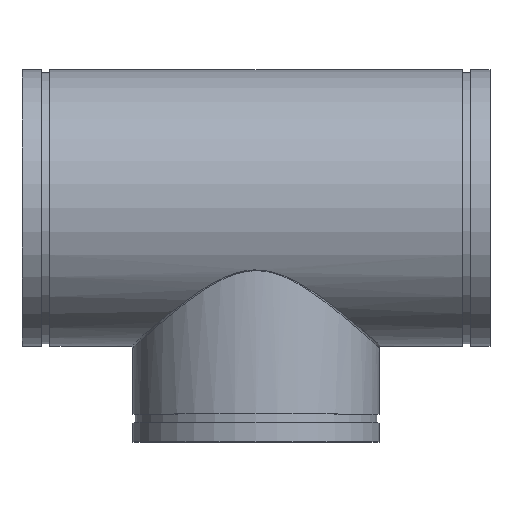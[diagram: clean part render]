
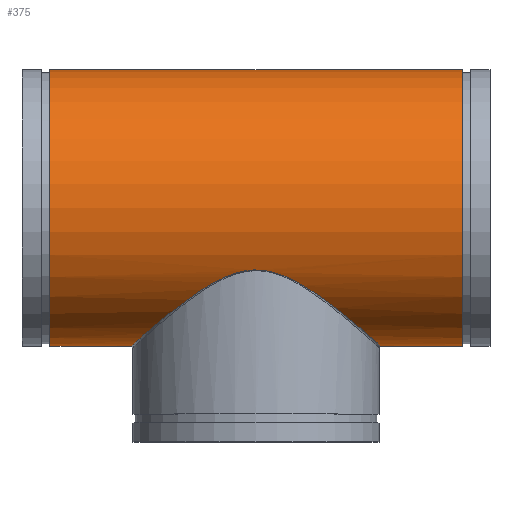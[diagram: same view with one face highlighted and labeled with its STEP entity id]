
A CAD part, top view. The second image highlights one B-rep face of the part: STEP entity #375.
In plain terms, the highlighted cylindrical face has radius 247.65 mm (diameter 495.3 mm), a full revolution.
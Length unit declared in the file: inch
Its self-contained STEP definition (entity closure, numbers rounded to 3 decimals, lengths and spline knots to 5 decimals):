
#54=FACE_BOUND('',#119,.T.);
#65=LINE('',#952,#76);
#76=VECTOR('',#483,9.75);
#87=CYLINDRICAL_SURFACE('',#415,9.75);
#98=FACE_OUTER_BOUND('',#118,.T.);
#118=EDGE_LOOP('',(#266,#267,#268,#269));
#119=EDGE_LOOP('',(#270));
#150=B_SPLINE_CURVE_WITH_KNOTS('',3,(#901,#902,#903,#904,#905,#906,#907,
#908,#909,#910,#911,#912,#913,#914,#915,#916,#917,#918,#919,#920,#921,#922,
#923,#924,#925,#926,#927,#928,#929,#930,#931,#932,#933,#934,#935,#936,#937,
#938,#939,#940,#941,#942,#943,#944,#945,#946,#947),.UNSPECIFIED.,.T.,.F.,
(4,1,1,1,1,1,1,1,1,1,1,1,1,1,1,1,1,1,1,1,1,1,1,1,1,1,1,1,1,1,1,1,1,1,1,
1,1,1,1,1,1,1,1,1,4),(-147.95716,-145.97559,-145.31507,
-142.67298,-140.03089,-138.04932,-137.38879,
-132.10461,-126.82043,-123.29764,-119.77485,
-118.01345,-116.25206,-112.72927,-109.20648,
-105.68369,-102.1609,-98.63811,-91.59253,
-88.06974,-84.54695,-81.02416,-77.50137,
-75.15284,-72.80432,-70.45579,-66.933,
-63.41021,-59.88742,-56.36463,-49.31905,-45.79626,
-42.27348,-38.75069,-35.2279,-31.70511,
-28.18232,-24.65953,-21.13674,-15.85255,
-10.56837,-7.92628,-5.28418,-2.64209,
0.),.UNSPECIFIED.);
#154=CIRCLE('',#416,9.75);
#155=CIRCLE('',#417,9.75);
#182=VERTEX_POINT('',#846);
#185=VERTEX_POINT('',#949);
#186=VERTEX_POINT('',#951);
#219=EDGE_CURVE('',#182,#182,#150,.T.);
#220=EDGE_CURVE('',#185,#185,#154,.T.);
#221=EDGE_CURVE('',#185,#186,#65,.T.);
#222=EDGE_CURVE('',#186,#186,#155,.T.);
#266=ORIENTED_EDGE('',*,*,#220,.T.);
#267=ORIENTED_EDGE('',*,*,#221,.T.);
#268=ORIENTED_EDGE('',*,*,#222,.T.);
#269=ORIENTED_EDGE('',*,*,#221,.F.);
#270=ORIENTED_EDGE('',*,*,#219,.F.);
#375=ADVANCED_FACE('',(#98,#54),#87,.T.);
#415=AXIS2_PLACEMENT_3D('',#948,#479,#480);
#416=AXIS2_PLACEMENT_3D('',#950,#481,#482);
#417=AXIS2_PLACEMENT_3D('',#953,#484,#485);
#479=DIRECTION('center_axis',(-1.,0.,0.));
#480=DIRECTION('ref_axis',(0.,-1.,0.));
#481=DIRECTION('center_axis',(1.,0.,0.));
#482=DIRECTION('ref_axis',(0.,-1.,0.));
#483=DIRECTION('',(1.,0.,0.));
#484=DIRECTION('center_axis',(-1.,0.,0.));
#485=DIRECTION('ref_axis',(0.,-1.,0.));
#846=CARTESIAN_POINT('',(0.,-4.37505,-8.71329));
#901=CARTESIAN_POINT('Ctrl Pts',(0.,-4.37505,
-8.71329));
#902=CARTESIAN_POINT('Ctrl Pts',(0.26964,-4.37505,-8.71329));
#903=CARTESIAN_POINT('Ctrl Pts',(0.62889,-4.40809,-8.69686));
#904=CARTESIAN_POINT('Ctrl Pts',(1.32971,-4.55153,-8.62298));
#905=CARTESIAN_POINT('Ctrl Pts',(2.08628,-4.8099,-8.48539));
#906=CARTESIAN_POINT('Ctrl Pts',(2.93897,-5.23746,-8.22954));
#907=CARTESIAN_POINT('Ctrl Pts',(3.52034,-5.58413,-7.9949));
#908=CARTESIAN_POINT('Ctrl Pts',(4.36149,-6.12323,-7.60256));
#909=CARTESIAN_POINT('Ctrl Pts',(5.463,-6.92666,-6.92248));
#910=CARTESIAN_POINT('Ctrl Pts',(6.6606,-7.89255,-5.78817));
#911=CARTESIAN_POINT('Ctrl Pts',(7.54287,-8.63515,-4.58451));
#912=CARTESIAN_POINT('Ctrl Pts',(8.05636,-9.07755,-3.60601));
#913=CARTESIAN_POINT('Ctrl Pts',(8.38025,-9.35946,-2.75953));
#914=CARTESIAN_POINT('Ctrl Pts',(8.64033,-9.58714,-1.87624));
#915=CARTESIAN_POINT('Ctrl Pts',(8.83462,-9.75852,-0.71444));
#916=CARTESIAN_POINT('Ctrl Pts',(8.83478,-9.75855,0.71412));
#917=CARTESIAN_POINT('Ctrl Pts',(8.60135,-9.55291,2.10842));
#918=CARTESIAN_POINT('Ctrl Pts',(8.15949,-9.16619,3.40997));
#919=CARTESIAN_POINT('Ctrl Pts',(7.33671,-8.45809,4.97616));
#920=CARTESIAN_POINT('Ctrl Pts',(6.23839,-7.53976,6.25526));
#921=CARTESIAN_POINT('Ctrl Pts',(4.94907,-6.54752,7.2478));
#922=CARTESIAN_POINT('Ctrl Pts',(3.88689,-5.80088,7.8541));
#923=CARTESIAN_POINT('Ctrl Pts',(2.72409,-5.10219,8.31997));
#924=CARTESIAN_POINT('Ctrl Pts',(1.57644,-4.60161,8.59864));
#925=CARTESIAN_POINT('Ctrl Pts',(0.4828,-4.36667,8.71754));
#926=CARTESIAN_POINT('Ctrl Pts',(-0.48321,-4.36683,8.71749));
#927=CARTESIAN_POINT('Ctrl Pts',(-1.57676,-4.60172,8.59859));
#928=CARTESIAN_POINT('Ctrl Pts',(-2.72429,-5.10229,8.3199));
#929=CARTESIAN_POINT('Ctrl Pts',(-3.88731,-5.80117,7.85389));
#930=CARTESIAN_POINT('Ctrl Pts',(-4.94885,-6.54735,7.24792));
#931=CARTESIAN_POINT('Ctrl Pts',(-6.2381,-7.53953,6.25555));
#932=CARTESIAN_POINT('Ctrl Pts',(-7.33654,-8.45792,4.97642));
#933=CARTESIAN_POINT('Ctrl Pts',(-8.15929,-9.16604,3.41037));
#934=CARTESIAN_POINT('Ctrl Pts',(-8.60124,-9.5528,2.10891));
#935=CARTESIAN_POINT('Ctrl Pts',(-8.83472,-9.75852,0.71459));
#936=CARTESIAN_POINT('Ctrl Pts',(-8.83467,-9.75855,-0.71393));
#937=CARTESIAN_POINT('Ctrl Pts',(-8.60158,-9.55299,-2.10815));
#938=CARTESIAN_POINT('Ctrl Pts',(-8.15924,-9.16617,-3.40995));
#939=CARTESIAN_POINT('Ctrl Pts',(-7.54304,-8.63537,-4.58417));
#940=CARTESIAN_POINT('Ctrl Pts',(-6.66093,-7.89262,-5.78794));
#941=CARTESIAN_POINT('Ctrl Pts',(-5.46318,-6.9271,-6.92217));
#942=CARTESIAN_POINT('Ctrl Pts',(-4.16756,-5.9813,-7.72259));
#943=CARTESIAN_POINT('Ctrl Pts',(-3.01683,-5.27574,-8.20648));
#944=CARTESIAN_POINT('Ctrl Pts',(-2.08634,-4.81053,-8.48517));
#945=CARTESIAN_POINT('Ctrl Pts',(-1.07767,-4.46454,-8.6691));
#946=CARTESIAN_POINT('Ctrl Pts',(-0.35953,-4.37505,-8.71329));
#947=CARTESIAN_POINT('Ctrl Pts',(0.,-4.37505,
-8.71329));
#948=CARTESIAN_POINT('Origin',(16.5,0.,0.));
#949=CARTESIAN_POINT('',(-14.535,9.75,0.));
#950=CARTESIAN_POINT('Origin',(-14.535,0.,0.));
#951=CARTESIAN_POINT('',(14.535,9.75,0.));
#952=CARTESIAN_POINT('',(16.5,9.75,0.));
#953=CARTESIAN_POINT('Origin',(14.535,0.,0.));
